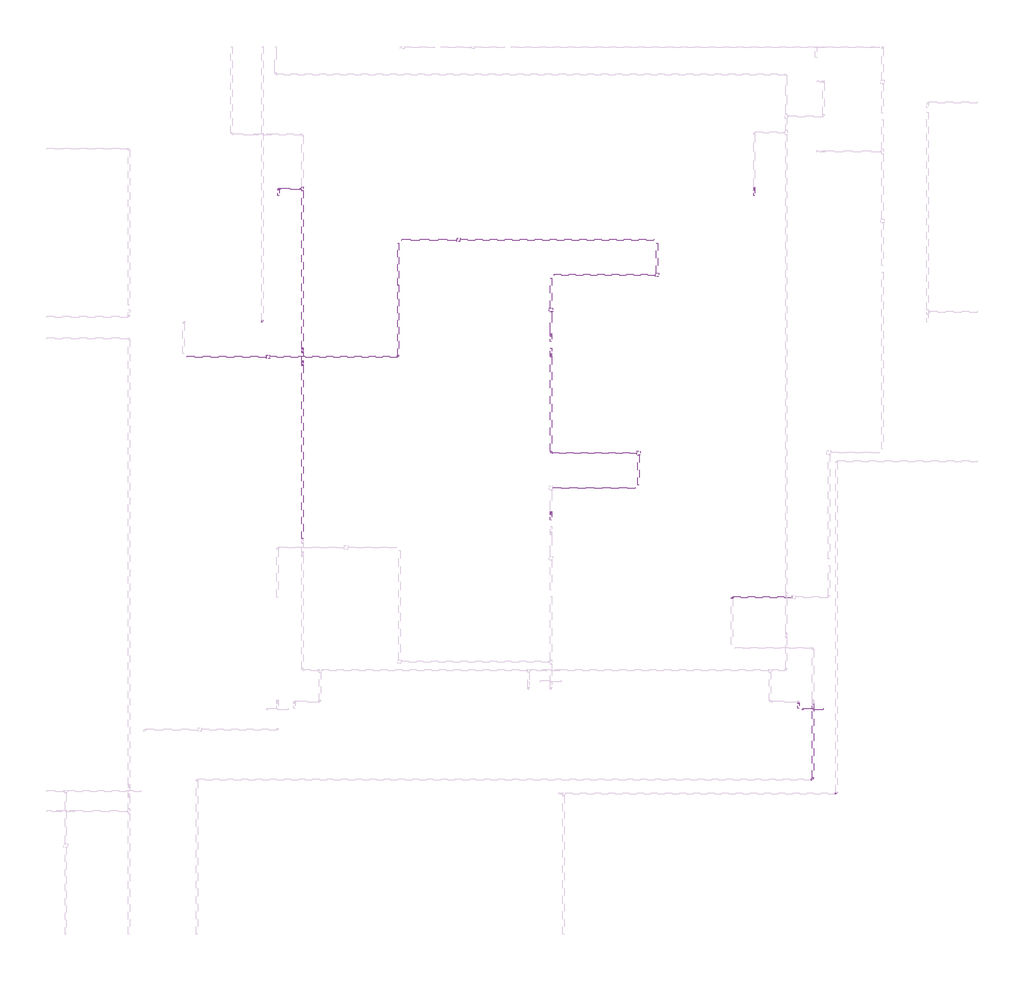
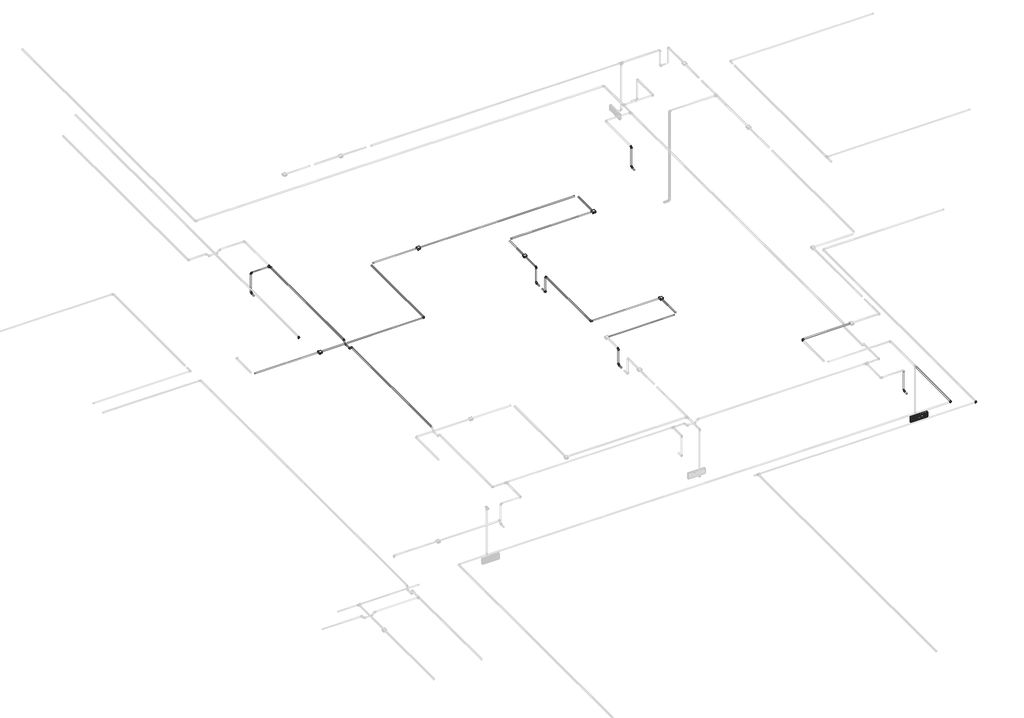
# One storey, part 12 of 40: 35 cable carrier segments, 22 cable carrier fittings, 6 alarms.
"""IFC4 building model written with IfcOpenShell, lengths in millimetres."""

from ifc_helpers import new_model, si_unit, point, frame, frame_2d, origin, place, context, project, spatial, circle_curve, trimmed, segment, composite_curve, outline, extrude, transform, mapped, element, save
from ifc_brep_helpers import plane_surface, cylinder_surface, advanced_brep
from components import alarm_4b7e8fd8, alarm_a2247946, cable_carrier_fitting_69f1a801, cable_carrier_fitting_8122f9af, cable_carrier_fitting_0e9b5d50, cable_carrier_fitting_8fd13dfc

model = new_model("IFC4")

# Units and contexts
model_context = context("Model", 3, world=origin())
ifc_project = project(units=[si_unit("LENGTHUNIT", "METRE", prefix="MILLI")], contexts=[model_context])

# Site, building, storey
site = spatial("IfcSite", under=ifc_project)
building = spatial("IfcBuilding", under=site)
storey = spatial("IfcBuildingStorey", under=building, Name="1 этаж", Elevation=0.0)

# Alarms
placement = place(None, origin())
alarm_shape = alarm_4b7e8fd8(model_context)
element("IfcAlarm", 1, ObjectType="RBZ_Оповещатель_Световой_Рубеж_ОПОП1-R3(грань) : ОПОП 1-R3 \"Выход\"", at=placement, inside=storey, context=model_context, shape_type="MappedRepresentation", body=[
    mapped(alarm_shape, transform((16403.9259979, -7495.3629895, 2300.0), x_axis=(1.0, 0.0, 0.0), y_axis=(0.0, 0.0, 1.0), z_axis=(0.0, -1.0, 0.0))),
])
alarm_2_shape = alarm_a2247946(model_context)
element("IfcAlarm", 2, ObjectType="RBZ_ИзоляторШлейфа_Рубеж_ИЗ-1_прот.R3(плоскость) : ИЗ-1 прот.R3", at=placement, inside=storey, context=model_context, shape_type="MappedRepresentation", body=[
    mapped(alarm_2_shape, transform((14179.951915, -1305.3629895, 3200.75), x_axis=(1.0, 0.0, 0.0), y_axis=(0.0, 1.0, 0.0), z_axis=(0.0, 0.0, 1.0))),
])
element("IfcAlarm", 3, ObjectType="RBZ_ИзоляторШлейфа_Рубеж_ИЗ-1_прот.R3(плоскость) : ИЗ-1 прот.R3", at=placement, inside=storey, context=model_context, shape_type="MappedRepresentation", body=[
    mapped(alarm_2_shape, transform((11347.6759979, -805.3629895, 3200.75), x_axis=(1.0, 0.0, 0.0), y_axis=(0.0, 1.0, 0.0), z_axis=(0.0, 0.0, 1.0))),
])
element("IfcAlarm", 4, ObjectType="RBZ_ИзоляторШлейфа_Рубеж_ИЗ-1_прот.R3(плоскость) : ИЗ-1 прот.R3", at=placement, inside=storey, context=model_context, shape_type="MappedRepresentation", body=[
    mapped(alarm_2_shape, transform((8632.6759979, -2475.3629895, 3200.5611701), x_axis=(1.0, 0.0, 0.0), y_axis=(0.0, 1.0, 0.0), z_axis=(0.0, 0.0, 1.0))),
])
element("IfcAlarm", 5, ObjectType="RBZ_ИзоляторШлейфа_Рубеж_ИЗ-1_прот.R3(плоскость) : ИЗ-1 прот.R3", at=placement, inside=storey, context=model_context, shape_type="MappedRepresentation", body=[
    mapped(alarm_2_shape, transform((12667.6759979, -1805.3629895, 3200.75), x_axis=(1.0, 0.0, 0.0), y_axis=(0.0, 1.0, 0.0), z_axis=(0.0, 0.0, 1.0))),
])
element("IfcAlarm", 6, ObjectType="RBZ_ИзоляторШлейфа_Рубеж_ИЗ-1_прот.R3(плоскость) : ИЗ-1 прот.R3", at=placement, inside=storey, context=model_context, shape_type="MappedRepresentation", body=[
    mapped(alarm_2_shape, transform((13917.6759979, -3848.0726854, 3200.75), x_axis=(1.0, 0.0, 0.0), y_axis=(0.0, 1.0, 0.0), z_axis=(0.0, 0.0, 1.0))),
])

# Cable carrier fittings
cable_carrier_fitting_shape = cable_carrier_fitting_69f1a801(model_context)
element("IfcCableCarrierFitting", 7, ObjectType="ADSK_Поворот_Минимальный размер : Неспецифицируемый", at=placement, inside=storey, context=model_context, shape_type="MappedRepresentation", body=[
    mapped(cable_carrier_fitting_shape, transform((10489.9519257, -2475.3629895, 3189.8153637), x_axis=(0.999999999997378, 0.0, 2.2899739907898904e-06), y_axis=(5.873502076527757e-11, 0.9999999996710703, -2.5648771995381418e-05), z_axis=(-2.28997399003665e-06, 2.564877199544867e-05, 0.9999999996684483))),
])
element("IfcCableCarrierFitting", 8, ObjectType="ADSK_Поворот_Минимальный размер : Неспецифицируемый", at=placement, inside=storey, context=model_context, shape_type="MappedRepresentation", body=[
    mapped(cable_carrier_fitting_shape, transform((15247.6759979, -5905.3629895, 3189.99952), x_axis=(-1.0, 0.0, 0.0), y_axis=(0.0, -1.0, 0.0), z_axis=(0.0, 0.0, 1.0))),
])
element("IfcCableCarrierFitting", 9, ObjectType="ADSK_Поворот_Минимальный размер : Неспецифицируемый", at=placement, inside=storey, context=model_context, shape_type="MappedRepresentation", body=[
    mapped(cable_carrier_fitting_shape, transform((8554.17594, -1975.3629895, 3189.8106424), x_axis=(0.9999999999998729, 0.0, -5.042216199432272e-07), y_axis=(0.0, 1.0, 0.0), z_axis=(5.042216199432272e-07, 0.0, 0.9999999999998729))),
])
element("IfcCableCarrierFitting", 10, ObjectType="ADSK_Поворот_Минимальный размер : Неспецифицируемый", at=placement, inside=storey, context=model_context, shape_type="MappedRepresentation", body=[
    mapped(cable_carrier_fitting_shape, transform((12667.6759979, -4704.1631839, 2891.5753772), x_axis=(0.0, 1.0, 0.0), y_axis=(0.0, 0.0, 1.0), z_axis=(1.0, 0.0, 0.0))),
])
element("IfcCableCarrierFitting", 11, ObjectType="ADSK_Поворот_Минимальный размер : Неспецифицируемый", at=placement, inside=storey, context=model_context, shape_type="MappedRepresentation", body=[
    mapped(cable_carrier_fitting_shape, transform((12667.6759979, -2162.1631839, 2891.5753772), x_axis=(0.0, 1.0, 0.0), y_axis=(0.0, 0.0, 1.0), z_axis=(1.0, 0.0, 0.0))),
])
element("IfcCableCarrierFitting", 12, ObjectType="ADSK_Поворот_Минимальный размер : Неспецифицируемый", at=placement, inside=storey, context=model_context, shape_type="MappedRepresentation", body=[
    mapped(cable_carrier_fitting_shape, transform((12667.6759979, -2162.1631839, 3190.0), x_axis=(0.0, 0.0, 1.0), y_axis=(0.0, 1.0, 0.0), z_axis=(-1.0, 0.0, 0.0))),
])
element("IfcCableCarrierFitting", 13, ObjectType="ADSK_Поворот_Минимальный размер : Неспецифицируемый", at=placement, inside=storey, context=model_context, shape_type="MappedRepresentation", body=[
    mapped(cable_carrier_fitting_shape, transform((12667.6759979, -2449.5627951, 2891.5753772), x_axis=(0.0, -1.0, 0.0), y_axis=(0.0, 0.0, 1.0), z_axis=(-1.0, 0.0, 0.0))),
])
element("IfcCableCarrierFitting", 14, ObjectType="ADSK_Поворот_Минимальный размер : Неспецифицируемый", at=placement, inside=storey, context=model_context, shape_type="MappedRepresentation", body=[
    mapped(cable_carrier_fitting_shape, transform((12667.6759979, -3848.0726854, 3190.0), x_axis=(0.0, -1.0, 0.0), y_axis=(1.0, 0.0, 0.0), z_axis=(0.0, 0.0, 1.0))),
])
element("IfcCableCarrierFitting", 15, ObjectType="ADSK_Поворот_Минимальный размер : Неспецифицируемый", at=placement, inside=storey, context=model_context, shape_type="MappedRepresentation", body=[
    mapped(cable_carrier_fitting_shape, transform((12667.6759979, -2449.5627951, 3190.0), x_axis=(0.0, 0.0, 1.0), y_axis=(0.0, -1.0, 0.0), z_axis=(1.0, 0.0, 0.0))),
])
element("IfcCableCarrierFitting", 16, ObjectType="ADSK_Поворот_Минимальный размер : Неспецифицируемый", at=placement, inside=storey, context=model_context, shape_type="MappedRepresentation", body=[
    mapped(cable_carrier_fitting_shape, transform((16199.9249252, -7398.1631839, 2797.4861504), x_axis=(0.0, 1.0, 0.0), y_axis=(0.0, 0.0, 1.0), z_axis=(1.0, 0.0, 0.0))),
])
element("IfcCableCarrierFitting", 17, ObjectType="ADSK_Поворот_Минимальный размер : Неспецифицируемый", at=placement, inside=storey, context=model_context, shape_type="MappedRepresentation", body=[
    mapped(cable_carrier_fitting_shape, transform((15567.6759979, -78.1631839, 2797.4861504), x_axis=(0.0, 1.0, 0.0), y_axis=(0.0, 0.0, 1.0), z_axis=(1.0, 0.0, 0.0))),
])
element("IfcCableCarrierFitting", 18, ObjectType="ADSK_Поворот_Минимальный размер : Неспецифицируемый", at=placement, inside=storey, context=model_context, shape_type="MappedRepresentation", body=[
    mapped(cable_carrier_fitting_shape, transform((15567.6759979, -78.1631839, 3180.0), x_axis=(0.0, 0.0, 1.0), y_axis=(0.0, 1.0, 0.0), z_axis=(-1.0, 0.0, 0.0))),
])
element("IfcCableCarrierFitting", 19, ObjectType="ADSK_Поворот_Минимальный размер : Неспецифицируемый", at=placement, inside=storey, context=model_context, shape_type="MappedRepresentation", body=[
    mapped(cable_carrier_fitting_shape, transform((8782.6759979, -78.1631839, 2797.4861504), x_axis=(0.0, 1.0, 0.0), y_axis=(0.0, 0.0, 1.0), z_axis=(1.0, 0.0, 0.0))),
])
element("IfcCableCarrierFitting", 20, ObjectType="ADSK_Поворот_Минимальный размер : Неспецифицируемый", at=placement, inside=storey, context=model_context, shape_type="MappedRepresentation", body=[
    mapped(cable_carrier_fitting_shape, transform((16403.9259979, -8505.3629895, 3190.0), x_axis=(1.0, 0.0, 0.0), y_axis=(0.0, 1.0, 0.0), z_axis=(0.0, 0.0, 1.0))),
])
element("IfcCableCarrierFitting", 21, ObjectType="ADSK_Поворот_Минимальный размер : Неспецифицируемый", at=placement, inside=storey, context=model_context, shape_type="MappedRepresentation", body=[
    mapped(cable_carrier_fitting_shape, transform((16740.1759979, -8707.8629895, 3187.0), x_axis=(1.0, 0.0, 0.0), y_axis=(0.0, 1.0, 0.0), z_axis=(0.0, 0.0, 1.0))),
])
element("IfcCableCarrierFitting", 22, ObjectType="ADSK_Поворот_Минимальный размер : Неспецифицируемый", at=placement, inside=storey, context=model_context, shape_type="MappedRepresentation", body=[
    mapped(cable_carrier_fitting_shape, transform((8782.6759979, -78.1631839, 3180.0), x_axis=(0.0, 0.0, 1.0), y_axis=(1.0, 0.0, 0.0), z_axis=(0.0, 1.0, 0.0))),
])
cable_carrier_fitting_2_shape = cable_carrier_fitting_8122f9af(model_context)
element("IfcCableCarrierFitting", 23, ObjectType="ADSK_Поворот_Минимальный размер : Неспецифицируемый", at=placement, inside=storey, context=model_context, shape_type="MappedRepresentation", body=[
    mapped(cable_carrier_fitting_2_shape, transform((9122.6759979, -2591.9352607, 3180.0), x_axis=(0.0, 1.0, 0.0), y_axis=(0.0, 0.0, -1.0), z_axis=(-1.0, 0.0, 0.0))),
])
element("IfcCableCarrierFitting", 24, ObjectType="ADSK_Поворот_Минимальный размер : Неспецифицируемый", at=placement, inside=storey, context=model_context, shape_type="MappedRepresentation", body=[
    mapped(cable_carrier_fitting_2_shape, transform((9122.6759979, -2541.9352607, 3130.0), x_axis=(0.0, 0.707106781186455, -0.7071067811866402), y_axis=(0.0, 0.7071067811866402, 0.707106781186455), z_axis=(1.0, 0.0, 0.0))),
])
element("IfcCableCarrierFitting", 25, ObjectType="ADSK_Поворот_Минимальный размер : Неспецифицируемый", at=placement, inside=storey, context=model_context, shape_type="MappedRepresentation", body=[
    mapped(cable_carrier_fitting_2_shape, transform((9122.6759979, -2408.7907182, 3130.0), x_axis=(0.0, 1.0, 0.0), y_axis=(0.0, 0.0, 1.0), z_axis=(1.0, 0.0, 0.0))),
])
element("IfcCableCarrierFitting", 26, ObjectType="ADSK_Поворот_Минимальный размер : Неспецифицируемый", at=placement, inside=storey, context=model_context, shape_type="MappedRepresentation", body=[
    mapped(cable_carrier_fitting_2_shape, transform((9122.6759979, -2358.7907182, 3180.0), x_axis=(0.0, 0.7071067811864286, 0.7071067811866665), y_axis=(0.0, 0.7071067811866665, -0.7071067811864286), z_axis=(-1.0, 0.0, 0.0))),
])
cable_carrier_fitting_3_shape = cable_carrier_fitting_0e9b5d50(model_context)
element("IfcCableCarrierFitting", 27, ObjectType="ADSK_Поворот_Минимальный размер : Неспецифицируемый", at=placement, inside=storey, context=model_context, shape_type="MappedRepresentation", body=[
    mapped(cable_carrier_fitting_3_shape, transform((12667.6759979, -4704.1631839, 3189.9984687), x_axis=(0.0, 0.0, 1.0), y_axis=(0.0, 1.0, 0.0), z_axis=(-1.0, 0.0, 0.0))),
])
cable_carrier_fitting_4_shape = cable_carrier_fitting_8fd13dfc(model_context)
element("IfcCableCarrierFitting", 28, ObjectType="ADSK_Тройник : ПВХ", at=placement, inside=storey, context=model_context, shape_type="MappedRepresentation", body=[
    mapped(cable_carrier_fitting_4_shape, transform((9122.6759979, -78.1631839, 3180.0), x_axis=(0.0, -1.0, 0.0), y_axis=(1.0, 0.0, 0.0), z_axis=(0.0, 0.0, 1.0))),
])

# Cable carrier segments
element("IfcCableCarrierSegment", 29, ObjectType="Гофрированная труба", at=placement, inside=storey, context=model_context, shape_type="SweptSolid", body=[
    extrude(outline(composite_curve([segment(trimmed(circle_curve(frame_2d((-2475.3629895, 3189.8111701)), 10.0), [point((-2465.3629895, 3189.8111701))], [point((-2475.3629895, 3179.8111701))], False, "CARTESIAN"), True, "CONTINUOUS"), segment(trimmed(circle_curve(frame_2d((-2475.3629895, 3189.8111701)), 10.0), [point((-2475.3629895, 3179.8111701))], [point((-2485.3629895, 3189.8111701))], False, "CARTESIAN"), True, "CONTINUOUS"), segment(trimmed(circle_curve(frame_2d((-2475.3629895, 3189.8111701)), 10.0), [point((-2485.3629895, 3189.8111701))], [point((-2475.3629895, 3199.8111701))], False, "CARTESIAN"), True, "CONTINUOUS"), segment(trimmed(circle_curve(frame_2d((-2475.3629895, 3189.8111701)), 10.0), [point((-2475.3629895, 3199.8111701))], [point((-2465.3629895, 3189.8111701))], False, "CARTESIAN"), True, "CONTINUOUS")], self_intersect=False)), frame((7474.1759982, 0.0, 0.0), z_axis=(1.0, 0.0, 0.0), x_axis=(0.0, 1.0, 0.0)), (0.0, 0.0, 1.0), 1132.4999997),
])
element("IfcCableCarrierSegment", 30, ObjectType="Гофрированная труба", at=placement, inside=storey, context=model_context, shape_type="SweptSolid", body=[
    extrude(outline(composite_curve([segment(trimmed(circle_curve(frame_2d((0.0, -10.0)), 10.0), [point((-10.0, -10.0))], [point((0.0, 0.0))], False, "CARTESIAN"), True, "CONTINUOUS"), segment(trimmed(circle_curve(frame_2d((0.0, -10.0)), 10.0), [point((0.0, 0.0))], [point((10.0, -10.0))], False, "CARTESIAN"), True, "CONTINUOUS"), segment(trimmed(circle_curve(frame_2d((0.0, -10.0)), 10.0), [point((10.0, -10.0))], [point((0.0, -20.0))], False, "CARTESIAN"), True, "CONTINUOUS"), segment(trimmed(circle_curve(frame_2d((0.0, -10.0)), 10.0), [point((0.0, -20.0))], [point((-10.0, -10.0))], False, "CARTESIAN"), True, "CONTINUOUS")], self_intersect=False)), frame((8658.6760208, -2475.3629895, 3179.8111701), z_axis=(0.9999999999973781, 0.0, 2.2899739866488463e-06), x_axis=(0.0, -1.0, 0.0)), (0.0, 0.0, 1.0), 1810.2759278),
])
element("IfcCableCarrierSegment", 31, ObjectType="Гофрированная труба", at=placement, inside=storey, context=model_context, shape_type="SweptSolid", body=[
    extrude(outline(composite_curve([segment(trimmed(circle_curve(frame_2d((0.0, -10.0)), 10.0), [point((0.0, -20.0))], [point((-10.0000001, -10.0))], False, "CARTESIAN"), True, "CONTINUOUS"), segment(trimmed(circle_curve(frame_2d((0.0, -10.0)), 10.0), [point((-10.0000001, -10.0))], [point((0.0, 0.0))], False, "CARTESIAN"), True, "CONTINUOUS"), segment(trimmed(circle_curve(frame_2d((0.0, -10.0)), 10.0), [point((0.0, 0.0))], [point((10.0, -10.0))], False, "CARTESIAN"), True, "CONTINUOUS"), segment(trimmed(circle_curve(frame_2d((0.0, -10.0)), 10.0), [point((10.0, -10.0))], [point((0.0, -20.0))], False, "CARTESIAN"), True, "CONTINUOUS")], self_intersect=False)), frame((10479.9519257, -1455.3629895, 3189.253655), z_axis=(0.0, -0.9999998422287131, 0.0005617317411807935), x_axis=(0.0, 0.0005617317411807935, 0.9999998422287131)), (0.0, 0.0, 1.0), 999.0001576),
])
element("IfcCableCarrierSegment", 32, ObjectType="Гофрированная труба", at=placement, inside=storey, context=model_context, shape_type="SweptSolid", body=[
    extrude(outline(composite_curve([segment(trimmed(circle_curve(frame_2d((-805.3629895, 3190.0)), 10.0), [point((-795.3629895, 3190.0))], [point((-805.3629895, 3180.0))], False, "CARTESIAN"), True, "CONTINUOUS"), segment(trimmed(circle_curve(frame_2d((-805.3629895, 3190.0)), 10.0), [point((-805.3629895, 3180.0))], [point((-815.3629895, 3190.0))], False, "CARTESIAN"), True, "CONTINUOUS"), segment(trimmed(circle_curve(frame_2d((-805.3629895, 3190.0)), 10.0), [point((-815.3629895, 3190.0))], [point((-805.3629895, 3200.0))], False, "CARTESIAN"), True, "CONTINUOUS"), segment(trimmed(circle_curve(frame_2d((-805.3629895, 3190.0)), 10.0), [point((-805.3629895, 3200.0))], [point((-795.3629895, 3190.0))], False, "CARTESIAN"), True, "CONTINUOUS")], self_intersect=False)), frame((10536.451915, 0.0, 0.0), z_axis=(1.0, 0.0, 0.0), x_axis=(0.0, 1.0, 0.0)), (0.0, 0.0, 1.0), 785.2240829),
])
element("IfcCableCarrierSegment", 33, ObjectType="Гофрированная труба", at=placement, inside=storey, context=model_context, shape_type="SweptSolid", body=[
    extrude(outline(composite_curve([segment(trimmed(circle_curve(frame_2d((-805.3629895, 3190.0)), 10.0), [point((-795.3629895, 3190.0))], [point((-805.3629895, 3180.0))], False, "CARTESIAN"), True, "CONTINUOUS"), segment(trimmed(circle_curve(frame_2d((-805.3629895, 3190.0)), 10.0), [point((-805.3629895, 3180.0))], [point((-815.3629895, 3190.0))], False, "CARTESIAN"), True, "CONTINUOUS"), segment(trimmed(circle_curve(frame_2d((-805.3629895, 3190.0)), 10.0), [point((-815.3629895, 3190.0))], [point((-805.3629895, 3200.0))], False, "CARTESIAN"), True, "CONTINUOUS"), segment(trimmed(circle_curve(frame_2d((-805.3629895, 3190.0)), 10.0), [point((-805.3629895, 3200.0))], [point((-795.3629895, 3190.0))], False, "CARTESIAN"), True, "CONTINUOUS")], self_intersect=False)), frame((11373.6759979, 0.0, 0.0), z_axis=(1.0, 0.0, 0.0), x_axis=(0.0, 1.0, 0.0)), (0.0, 0.0, 1.0), 2759.7759171),
])
element("IfcCableCarrierSegment", 34, ObjectType="Гофрированная труба", at=placement, inside=storey, context=model_context, shape_type="SweptSolid", body=[
    extrude(outline(composite_curve([segment(trimmed(circle_curve(frame_2d((-1305.3629895, 3190.0)), 10.0), [point((-1295.3629895, 3190.0))], [point((-1305.3629895, 3180.0))], False, "CARTESIAN"), True, "CONTINUOUS"), segment(trimmed(circle_curve(frame_2d((-1305.3629895, 3190.0)), 10.0), [point((-1305.3629895, 3180.0))], [point((-1315.3629895, 3190.0))], False, "CARTESIAN"), True, "CONTINUOUS"), segment(trimmed(circle_curve(frame_2d((-1305.3629895, 3190.0)), 10.0), [point((-1315.3629895, 3190.0))], [point((-1305.3629895, 3200.0))], False, "CARTESIAN"), True, "CONTINUOUS"), segment(trimmed(circle_curve(frame_2d((-1305.3629895, 3190.0)), 10.0), [point((-1305.3629895, 3200.0))], [point((-1295.3629895, 3190.0))], False, "CARTESIAN"), True, "CONTINUOUS")], self_intersect=False)), frame((12714.1759979, 0.0, 0.0), z_axis=(1.0, 0.0, 0.0), x_axis=(0.0, 1.0, 0.0)), (0.0, 0.0, 1.0), 1439.7759171),
])
element("IfcCableCarrierSegment", 35, ObjectType="Гофрированная труба", at=placement, inside=storey, context=model_context, shape_type="AdvancedBrep", body=[
    advanced_brep(
    [(16393.9259974, -7428.1631839, 3190.0), (16403.9259974, -7428.1631839, 3200.0), (16413.9259974, -7428.1631839, 3190.0), (16403.9259974, -7428.1631839, 3180.0), (16393.9259979, -8484.3629895, 3190.0), (16403.9259979, -8484.3629895, 3180.0), (16413.9259979, -8484.3629895, 3190.0), (16403.9259979, -8484.3629895, 3200.0)],
    [
        (0, 1, circle_curve(frame((16403.9259974, -7428.1631839, 3190.0), z_axis=(0.0, 1.0, 0.0), x_axis=(-1.0, 0.0, 0.0)), 10.0)),
        (1, 2, circle_curve(frame((16403.9259974, -7428.1631839, 3190.0), z_axis=(0.0, 1.0, 0.0), x_axis=(-1.0, 0.0, 0.0)), 10.0)),
        (2, 3, circle_curve(frame((16403.9259974, -7428.1631839, 3190.0), z_axis=(0.0, 1.0, 0.0), x_axis=(-1.0, 0.0, 0.0)), 10.0)),
        (3, 0, circle_curve(frame((16403.9259974, -7428.1631839, 3190.0), z_axis=(0.0, 1.0, 0.0), x_axis=(-1.0, 0.0, 0.0)), 10.0)),
        (4, 5, circle_curve(frame((16403.9259974, -8484.3629895, 3190.0), z_axis=(0.0, -1.0, 0.0), x_axis=(-1.0, 0.0, 0.0)), 9.9999995)),
        (5, 6, circle_curve(frame((16403.9259974, -8484.3629895, 3190.0), z_axis=(0.0, -1.0, 0.0), x_axis=(-1.0, 0.0, 0.0)), 10.0)),
        (6, 7, circle_curve(frame((16403.9259974, -8484.3629895, 3190.0), z_axis=(0.0, -1.0, 0.0), x_axis=(-1.0, 0.0, 0.0)), 10.0000005)),
        (7, 4, circle_curve(frame((16403.9259974, -8484.3629895, 3190.0), z_axis=(0.0, -1.0, 0.0), x_axis=(-1.0, 0.0, 0.0)), 10.0)),
        (0, 4),
        (7, 1),
        (6, 2),
        (5, 3),
    ],
    [
        plane_surface(frame((16393.9259974, -7428.1631839, 3190.0), z_axis=(-5.026127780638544e-10, 1.0, 0.0), x_axis=(0.0, 0.0, -1.0))),
        plane_surface(frame((16393.9259979, -8484.3629895, 3190.0), z_axis=(5.026127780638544e-10, -1.0, 0.0), x_axis=(0.0, 0.0, -1.0))),
        cylinder_surface(frame((16403.9259974, -7428.1631839, 3190.0), z_axis=(0.0, 1.0, 0.0), x_axis=(-1.0, 0.0, 0.0)), 10.0),
    ],
    [
        (0, [[1, 2, 3, 4]]),
        (1, [[5, 6, 7, 8]]),
        (2, [[-1, 9, -8, 10]]),
        (2, [[-2, -10, -7, 11]]),
        (2, [[-3, -11, -6, 12]]),
        (2, [[-4, -12, -5, -9]]),
    ],
),
])
element("IfcCableCarrierSegment", 36, ObjectType="Гофрированная труба", at=placement, inside=storey, context=model_context, shape_type="SweptSolid", body=[
    extrude(outline(composite_curve([segment(trimmed(circle_curve(frame_2d((-5905.3629895, 3189.99952)), 10.0), [point((-5915.3629895, 3189.99952))], [point((-5905.3629895, 3199.99952))], False, "CARTESIAN"), True, "CONTINUOUS"), segment(trimmed(circle_curve(frame_2d((-5905.3629895, 3189.99952)), 10.0), [point((-5905.3629895, 3199.99952))], [point((-5895.3629895, 3189.99952))], False, "CARTESIAN"), True, "CONTINUOUS"), segment(trimmed(circle_curve(frame_2d((-5905.3629895, 3189.99952)), 10.0), [point((-5895.3629895, 3189.99952))], [point((-5905.3629895, 3179.99952))], False, "CARTESIAN"), True, "CONTINUOUS"), segment(trimmed(circle_curve(frame_2d((-5905.3629895, 3189.99952)), 10.0), [point((-5905.3629895, 3179.99952))], [point((-5915.3629895, 3189.99952))], False, "CARTESIAN"), True, "CONTINUOUS")], self_intersect=False)), frame((15268.6759979, 0.0, 0.0), z_axis=(1.0, 0.0, 0.0), x_axis=(0.0, 1.0, 0.0)), (0.0, 0.0, 1.0), 833.0),
])
element("IfcCableCarrierSegment", 37, ObjectType="Гофрированная труба", at=placement, inside=storey, context=model_context, shape_type="SweptSolid", body=[
    extrude(outline(composite_curve([segment(trimmed(circle_curve(frame_2d((3190.0, 10489.951915)), 10.0), [point((3190.0, 10479.951915))], [point((3180.0, 10489.951915))], False, "CARTESIAN"), True, "CONTINUOUS"), segment(trimmed(circle_curve(frame_2d((3190.0, 10489.951915)), 10.0), [point((3180.0, 10489.951915))], [point((3190.0, 10499.951915))], False, "CARTESIAN"), True, "CONTINUOUS"), segment(trimmed(circle_curve(frame_2d((3190.0, 10489.951915)), 10.0), [point((3190.0, 10499.951915))], [point((3200.0, 10489.951915))], False, "CARTESIAN"), True, "CONTINUOUS"), segment(trimmed(circle_curve(frame_2d((3190.0, 10489.951915)), 10.0), [point((3200.0, 10489.951915))], [point((3190.0, 10479.951915))], False, "CARTESIAN"), True, "CONTINUOUS")], self_intersect=False)), frame((0.0, -1455.3629895, 0.0), z_axis=(0.0, 1.0, 0.0), x_axis=(0.0, 0.0, 1.0)), (0.0, 0.0, 1.0), 603.5),
])
element("IfcCableCarrierSegment", 38, ObjectType="Гофрированная труба", at=placement, inside=storey, context=model_context, shape_type="SweptSolid", body=[
    extrude(outline(composite_curve([segment(trimmed(circle_curve(frame_2d((3190.0, 14179.951915)), 10.0), [point((3190.0, 14189.951915))], [point((3200.0, 14179.951915))], False, "CARTESIAN"), True, "CONTINUOUS"), segment(trimmed(circle_curve(frame_2d((3190.0, 14179.951915)), 10.0), [point((3200.0, 14179.951915))], [point((3190.0, 14169.951915))], False, "CARTESIAN"), True, "CONTINUOUS"), segment(trimmed(circle_curve(frame_2d((3190.0, 14179.951915)), 10.0), [point((3190.0, 14169.951915))], [point((3180.0, 14179.951915))], False, "CARTESIAN"), True, "CONTINUOUS"), segment(trimmed(circle_curve(frame_2d((3190.0, 14179.951915)), 10.0), [point((3180.0, 14179.951915))], [point((3190.0, 14189.951915))], False, "CARTESIAN"), True, "CONTINUOUS")], self_intersect=False)), frame((0.0, -1279.3629895, 0.0), z_axis=(0.0, 1.0, 0.0), x_axis=(0.0, 0.0, 1.0)), (0.0, 0.0, 1.0), 427.5),
])
element("IfcCableCarrierSegment", 39, ObjectType="Гофрированная труба", at=placement, inside=storey, context=model_context, shape_type="SweptSolid", body=[
    extrude(outline(composite_curve([segment(trimmed(circle_curve(frame_2d((2891.5753772, 12667.6759979)), 10.0), [point((2891.5753772, 12677.6759979))], [point((2901.5753772, 12667.6759979))], False, "CARTESIAN"), True, "CONTINUOUS"), segment(trimmed(circle_curve(frame_2d((2891.5753772, 12667.6759979)), 10.0), [point((2901.5753772, 12667.6759979))], [point((2891.5753772, 12657.6759979))], False, "CARTESIAN"), True, "CONTINUOUS"), segment(trimmed(circle_curve(frame_2d((2891.5753772, 12667.6759979)), 10.0), [point((2891.5753772, 12657.6759979))], [point((2881.5753772, 12667.6759979))], False, "CARTESIAN"), True, "CONTINUOUS"), segment(trimmed(circle_curve(frame_2d((2891.5753772, 12667.6759979)), 10.0), [point((2881.5753772, 12667.6759979))], [point((2891.5753772, 12677.6759979))], False, "CARTESIAN"), True, "CONTINUOUS")], self_intersect=False)), frame((0.0, -4801.3629895, 0.0), z_axis=(0.0, 1.0, 0.0), x_axis=(0.0, 0.0, 1.0)), (0.0, 0.0, 1.0), 76.1998056),
])
element("IfcCableCarrierSegment", 40, ObjectType="Гофрированная труба", at=placement, inside=storey, context=model_context, shape_type="SweptSolid", body=[
    extrude(outline(composite_curve([segment(trimmed(circle_curve(frame_2d((12667.6759979, -4704.1631839)), 10.0), [point((12657.6759979, -4704.1631839))], [point((12667.6759979, -4694.1631839))], False, "CARTESIAN"), True, "CONTINUOUS"), segment(trimmed(circle_curve(frame_2d((12667.6759979, -4704.1631839)), 10.0), [point((12667.6759979, -4694.1631839))], [point((12677.6759979, -4704.1631839))], False, "CARTESIAN"), True, "CONTINUOUS"), segment(trimmed(circle_curve(frame_2d((12667.6759979, -4704.1631839)), 10.0), [point((12677.6759979, -4704.1631839))], [point((12667.6759979, -4714.1631839))], False, "CARTESIAN"), True, "CONTINUOUS"), segment(trimmed(circle_curve(frame_2d((12667.6759979, -4704.1631839)), 10.0), [point((12667.6759979, -4714.1631839))], [point((12657.6759979, -4704.1631839))], False, "CARTESIAN"), True, "CONTINUOUS")], self_intersect=False)), frame((0.0, 0.0, 2912.5753772), z_axis=(0.0, 0.0, 1.0), x_axis=(1.0, 0.0, 0.0)), (0.0, 0.0, 1.0), 256.4245498),
])
element("IfcCableCarrierSegment", 41, ObjectType="Гофрированная труба", at=placement, inside=storey, context=model_context, shape_type="SweptSolid", body=[
    extrude(outline(composite_curve([segment(trimmed(circle_curve(frame_2d((0.0, -10.0)), 10.0), [point((-10.0, -10.0))], [point((0.0, 0.0))], False, "CARTESIAN"), True, "CONTINUOUS"), segment(trimmed(circle_curve(frame_2d((0.0, -10.0)), 10.0), [point((0.0, 0.0))], [point((10.0, -10.0))], False, "CARTESIAN"), True, "CONTINUOUS"), segment(trimmed(circle_curve(frame_2d((0.0, -10.0)), 10.0), [point((10.0, -10.0))], [point((0.0, -20.0))], False, "CARTESIAN"), True, "CONTINUOUS"), segment(trimmed(circle_curve(frame_2d((0.0, -10.0)), 10.0), [point((0.0, -20.0))], [point((-10.0, -10.0))], False, "CARTESIAN"), True, "CONTINUOUS")], self_intersect=False)), frame((13871.1758064, -4347.8629895, 3180.0), z_axis=(-0.999999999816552, 0.0, 1.915452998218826e-05), x_axis=(0.0, 1.0, 0.0)), (0.0, 0.0, 1.0), 1177.5000002),
])
element("IfcCableCarrierSegment", 42, ObjectType="Гофрированная труба", at=placement, inside=storey, context=model_context, shape_type="SweptSolid", body=[
    extrude(outline(composite_curve([segment(trimmed(circle_curve(frame_2d((3190.0, 13917.6759979)), 10.0), [point((3190.0, 13907.6759979))], [point((3180.0, 13917.6759979))], False, "CARTESIAN"), True, "CONTINUOUS"), segment(trimmed(circle_curve(frame_2d((3190.0, 13917.6759979)), 10.0), [point((3180.0, 13917.6759979))], [point((3190.0, 13927.6759979))], False, "CARTESIAN"), True, "CONTINUOUS"), segment(trimmed(circle_curve(frame_2d((3190.0, 13917.6759979)), 10.0), [point((3190.0, 13927.6759979))], [point((3200.0, 13917.6759979))], False, "CARTESIAN"), True, "CONTINUOUS"), segment(trimmed(circle_curve(frame_2d((3190.0, 13917.6759979)), 10.0), [point((3200.0, 13917.6759979))], [point((3190.0, 13907.6759979))], False, "CARTESIAN"), True, "CONTINUOUS")], self_intersect=False)), frame((0.0, -4301.3629895, 0.0), z_axis=(0.0, 1.0, 0.0), x_axis=(0.0, 0.0, 1.0)), (0.0, 0.0, 1.0), 427.290304),
])
element("IfcCableCarrierSegment", 43, ObjectType="Гофрированная труба", at=placement, inside=storey, context=model_context, shape_type="SweptSolid", body=[
    extrude(outline(composite_curve([segment(trimmed(circle_curve(frame_2d((-3848.0726854, 3190.0)), 10.0), [point((-3838.0726854, 3190.0))], [point((-3848.0726854, 3180.0))], False, "CARTESIAN"), True, "CONTINUOUS"), segment(trimmed(circle_curve(frame_2d((-3848.0726854, 3190.0)), 10.0), [point((-3848.0726854, 3180.0))], [point((-3858.0726854, 3190.0))], False, "CARTESIAN"), True, "CONTINUOUS"), segment(trimmed(circle_curve(frame_2d((-3848.0726854, 3190.0)), 10.0), [point((-3858.0726854, 3190.0))], [point((-3848.0726854, 3200.0))], False, "CARTESIAN"), True, "CONTINUOUS"), segment(trimmed(circle_curve(frame_2d((-3848.0726854, 3190.0)), 10.0), [point((-3848.0726854, 3200.0))], [point((-3838.0726854, 3190.0))], False, "CARTESIAN"), True, "CONTINUOUS")], self_intersect=False)), frame((12688.6759979, 0.0, 0.0), z_axis=(1.0, 0.0, 0.0), x_axis=(0.0, 1.0, 0.0)), (0.0, 0.0, 1.0), 1203.0),
])
element("IfcCableCarrierSegment", 44, ObjectType="Гофрированная труба", at=placement, inside=storey, context=model_context, shape_type="SweptSolid", body=[
    extrude(outline(composite_curve([segment(trimmed(circle_curve(frame_2d((3190.0, 12667.6759979)), 10.0), [point((3190.0, 12677.6759979))], [point((3200.0, 12667.6759979))], False, "CARTESIAN"), True, "CONTINUOUS"), segment(trimmed(circle_curve(frame_2d((3190.0, 12667.6759979)), 10.0), [point((3200.0, 12667.6759979))], [point((3190.0, 12657.6759979))], False, "CARTESIAN"), True, "CONTINUOUS"), segment(trimmed(circle_curve(frame_2d((3190.0, 12667.6759979)), 10.0), [point((3190.0, 12657.6759979))], [point((3180.0, 12667.6759979))], False, "CARTESIAN"), True, "CONTINUOUS"), segment(trimmed(circle_curve(frame_2d((3190.0, 12667.6759979)), 10.0), [point((3180.0, 12667.6759979))], [point((3190.0, 12677.6759979))], False, "CARTESIAN"), True, "CONTINUOUS")], self_intersect=False)), frame((0.0, -1779.3629895, 0.0), z_axis=(0.0, 1.0, 0.0), x_axis=(0.0, 0.0, 1.0)), (0.0, 0.0, 1.0), 427.5),
])
element("IfcCableCarrierSegment", 45, ObjectType="Гофрированная труба", at=placement, inside=storey, context=model_context, shape_type="SweptSolid", body=[
    extrude(outline(composite_curve([segment(trimmed(circle_curve(frame_2d((3190.0, 12667.6759979)), 10.0), [point((3190.0, 12677.6759979))], [point((3200.0, 12667.6759979))], False, "CARTESIAN"), True, "CONTINUOUS"), segment(trimmed(circle_curve(frame_2d((3190.0, 12667.6759979)), 10.0), [point((3200.0, 12667.6759979))], [point((3190.0, 12657.6759979))], False, "CARTESIAN"), True, "CONTINUOUS"), segment(trimmed(circle_curve(frame_2d((3190.0, 12667.6759979)), 10.0), [point((3190.0, 12657.6759979))], [point((3180.0, 12667.6759979))], False, "CARTESIAN"), True, "CONTINUOUS"), segment(trimmed(circle_curve(frame_2d((3190.0, 12667.6759979)), 10.0), [point((3180.0, 12667.6759979))], [point((3190.0, 12677.6759979))], False, "CARTESIAN"), True, "CONTINUOUS")], self_intersect=False)), frame((0.0, -2141.1631839, 0.0), z_axis=(0.0, 1.0, 0.0), x_axis=(0.0, 0.0, 1.0)), (0.0, 0.0, 1.0), 309.8001944),
])
element("IfcCableCarrierSegment", 46, ObjectType="Гофрированная труба", at=placement, inside=storey, context=model_context, shape_type="SweptSolid", body=[
    extrude(outline(composite_curve([segment(trimmed(circle_curve(frame_2d((2891.5753772, 12667.6759979)), 10.0), [point((2891.5753772, 12677.6759979))], [point((2901.5753772, 12667.6759979))], False, "CARTESIAN"), True, "CONTINUOUS"), segment(trimmed(circle_curve(frame_2d((2891.5753772, 12667.6759979)), 10.0), [point((2901.5753772, 12667.6759979))], [point((2891.5753772, 12657.6759979))], False, "CARTESIAN"), True, "CONTINUOUS"), segment(trimmed(circle_curve(frame_2d((2891.5753772, 12667.6759979)), 10.0), [point((2891.5753772, 12657.6759979))], [point((2881.5753772, 12667.6759979))], False, "CARTESIAN"), True, "CONTINUOUS"), segment(trimmed(circle_curve(frame_2d((2891.5753772, 12667.6759979)), 10.0), [point((2881.5753772, 12667.6759979))], [point((2891.5753772, 12677.6759979))], False, "CARTESIAN"), True, "CONTINUOUS")], self_intersect=False)), frame((0.0, -2259.3629895, 0.0), z_axis=(0.0, 1.0, 0.0), x_axis=(0.0, 0.0, 1.0)), (0.0, 0.0, 1.0), 76.1998056),
])
element("IfcCableCarrierSegment", 47, ObjectType="Гофрированная труба", at=placement, inside=storey, context=model_context, shape_type="SweptSolid", body=[
    extrude(outline(composite_curve([segment(trimmed(circle_curve(frame_2d((12667.6759979, -2162.1631839)), 10.0), [point((12657.6759979, -2162.1631839))], [point((12667.6759979, -2152.1631839))], False, "CARTESIAN"), True, "CONTINUOUS"), segment(trimmed(circle_curve(frame_2d((12667.6759979, -2162.1631839)), 10.0), [point((12667.6759979, -2152.1631839))], [point((12677.6759979, -2162.1631839))], False, "CARTESIAN"), True, "CONTINUOUS"), segment(trimmed(circle_curve(frame_2d((12667.6759979, -2162.1631839)), 10.0), [point((12677.6759979, -2162.1631839))], [point((12667.6759979, -2172.1631839))], False, "CARTESIAN"), True, "CONTINUOUS"), segment(trimmed(circle_curve(frame_2d((12667.6759979, -2162.1631839)), 10.0), [point((12667.6759979, -2172.1631839))], [point((12657.6759979, -2162.1631839))], False, "CARTESIAN"), True, "CONTINUOUS")], self_intersect=False)), frame((0.0, 0.0, 2912.5753772), z_axis=(0.0, 0.0, 1.0), x_axis=(1.0, 0.0, 0.0)), (0.0, 0.0, 1.0), 256.4246228),
])
element("IfcCableCarrierSegment", 48, ObjectType="Гофрированная труба", at=placement, inside=storey, context=model_context, shape_type="SweptSolid", body=[
    extrude(outline(composite_curve([segment(trimmed(circle_curve(frame_2d((3190.0, 12667.6759979)), 10.0), [point((3190.0, 12677.6759979))], [point((3200.0, 12667.6759979))], False, "CARTESIAN"), True, "CONTINUOUS"), segment(trimmed(circle_curve(frame_2d((3190.0, 12667.6759979)), 10.0), [point((3200.0, 12667.6759979))], [point((3190.0, 12657.6759979))], False, "CARTESIAN"), True, "CONTINUOUS"), segment(trimmed(circle_curve(frame_2d((3190.0, 12667.6759979)), 10.0), [point((3190.0, 12657.6759979))], [point((3180.0, 12667.6759979))], False, "CARTESIAN"), True, "CONTINUOUS"), segment(trimmed(circle_curve(frame_2d((3190.0, 12667.6759979)), 10.0), [point((3180.0, 12667.6759979))], [point((3190.0, 12677.6759979))], False, "CARTESIAN"), True, "CONTINUOUS")], self_intersect=False)), frame((0.0, -3827.0726854, 0.0), z_axis=(0.0, 1.0, 0.0), x_axis=(0.0, 0.0, 1.0)), (0.0, 0.0, 1.0), 1356.5098904),
])
element("IfcCableCarrierSegment", 49, ObjectType="Гофрированная труба", at=placement, inside=storey, context=model_context, shape_type="SweptSolid", body=[
    extrude(outline(composite_curve([segment(trimmed(circle_curve(frame_2d((2891.5753772, 12667.6759979)), 10.0), [point((2891.5753772, 12657.6759979))], [point((2881.5753772, 12667.6759979))], False, "CARTESIAN"), True, "CONTINUOUS"), segment(trimmed(circle_curve(frame_2d((2891.5753772, 12667.6759979)), 10.0), [point((2881.5753772, 12667.6759979))], [point((2891.5753772, 12677.6759979))], False, "CARTESIAN"), True, "CONTINUOUS"), segment(trimmed(circle_curve(frame_2d((2891.5753772, 12667.6759979)), 10.0), [point((2891.5753772, 12677.6759979))], [point((2901.5753772, 12667.6759979))], False, "CARTESIAN"), True, "CONTINUOUS"), segment(trimmed(circle_curve(frame_2d((2891.5753772, 12667.6759979)), 10.0), [point((2901.5753772, 12667.6759979))], [point((2891.5753772, 12657.6759979))], False, "CARTESIAN"), True, "CONTINUOUS")], self_intersect=False)), frame((0.0, -2428.5627951, 0.0), z_axis=(0.0, 1.0, 0.0), x_axis=(0.0, 0.0, 1.0)), (0.0, 0.0, 1.0), 76.1998056),
])
element("IfcCableCarrierSegment", 50, ObjectType="Гофрированная труба", at=placement, inside=storey, context=model_context, shape_type="SweptSolid", body=[
    extrude(outline(composite_curve([segment(trimmed(circle_curve(frame_2d((12667.6759979, -2449.5627951)), 10.0), [point((12657.6759979, -2449.5627951))], [point((12667.6759979, -2439.5627951))], False, "CARTESIAN"), True, "CONTINUOUS"), segment(trimmed(circle_curve(frame_2d((12667.6759979, -2449.5627951)), 10.0), [point((12667.6759979, -2439.5627951))], [point((12677.6759979, -2449.5627951))], False, "CARTESIAN"), True, "CONTINUOUS"), segment(trimmed(circle_curve(frame_2d((12667.6759979, -2449.5627951)), 10.0), [point((12677.6759979, -2449.5627951))], [point((12667.6759979, -2459.5627951))], False, "CARTESIAN"), True, "CONTINUOUS"), segment(trimmed(circle_curve(frame_2d((12667.6759979, -2449.5627951)), 10.0), [point((12667.6759979, -2459.5627951))], [point((12657.6759979, -2449.5627951))], False, "CARTESIAN"), True, "CONTINUOUS")], self_intersect=False)), frame((0.0, 0.0, 2912.5753772), z_axis=(0.0, 0.0, 1.0), x_axis=(1.0, 0.0, 0.0)), (0.0, 0.0, 1.0), 256.4246228),
])
element("IfcCableCarrierSegment", 51, ObjectType="Гофрированная труба", at=placement, inside=storey, context=model_context, shape_type="SweptSolid", body=[
    extrude(outline(composite_curve([segment(trimmed(circle_curve(frame_2d((2797.4861504, 16199.9249252)), 10.0), [point((2797.4861504, 16209.9249252))], [point((2807.4861504, 16199.9249252))], False, "CARTESIAN"), True, "CONTINUOUS"), segment(trimmed(circle_curve(frame_2d((2797.4861504, 16199.9249252)), 10.0), [point((2807.4861504, 16199.9249252))], [point((2797.4861504, 16189.9249252))], False, "CARTESIAN"), True, "CONTINUOUS"), segment(trimmed(circle_curve(frame_2d((2797.4861504, 16199.9249252)), 10.0), [point((2797.4861504, 16189.9249252))], [point((2787.4861504, 16199.9249252))], False, "CARTESIAN"), True, "CONTINUOUS"), segment(trimmed(circle_curve(frame_2d((2797.4861504, 16199.9249252)), 10.0), [point((2787.4861504, 16199.9249252))], [point((2797.4861504, 16209.9249252))], False, "CARTESIAN"), True, "CONTINUOUS")], self_intersect=False)), frame((0.0, -7495.3629895, 0.0), z_axis=(0.0, 1.0, 0.0), x_axis=(0.0, 0.0, 1.0)), (0.0, 0.0, 1.0), 76.1998056),
])
element("IfcCableCarrierSegment", 52, ObjectType="Гофрированная труба", at=placement, inside=storey, context=model_context, shape_type="SweptSolid", body=[
    extrude(outline(composite_curve([segment(trimmed(circle_curve(frame_2d((16199.9249252, -7398.1631839)), 10.0), [point((16189.9249252, -7398.1631839))], [point((16199.9249252, -7388.1631839))], False, "CARTESIAN"), True, "CONTINUOUS"), segment(trimmed(circle_curve(frame_2d((16199.9249252, -7398.1631839)), 10.0), [point((16199.9249252, -7388.1631839))], [point((16209.9249252, -7398.1631839))], False, "CARTESIAN"), True, "CONTINUOUS"), segment(trimmed(circle_curve(frame_2d((16199.9249252, -7398.1631839)), 10.0), [point((16209.9249252, -7398.1631839))], [point((16199.9249252, -7408.1631839))], False, "CARTESIAN"), True, "CONTINUOUS"), segment(trimmed(circle_curve(frame_2d((16199.9249252, -7398.1631839)), 10.0), [point((16199.9249252, -7408.1631839))], [point((16189.9249252, -7398.1631839))], False, "CARTESIAN"), True, "CONTINUOUS")], self_intersect=False)), frame((0.0, 0.0, 2818.4861504), z_axis=(0.0, 0.0, 1.0), x_axis=(1.0, 0.0, 0.0)), (0.0, 0.0, 1.0), 340.5138496),
])
element("IfcCableCarrierSegment", 53, ObjectType="Гофрированная труба", at=placement, inside=storey, context=model_context, shape_type="SweptSolid", body=[
    extrude(outline(composite_curve([segment(trimmed(circle_curve(frame_2d((2797.4861504, 15567.6759979)), 10.0), [point((2797.4861504, 15577.6759979))], [point((2807.4861504, 15567.6759979))], False, "CARTESIAN"), True, "CONTINUOUS"), segment(trimmed(circle_curve(frame_2d((2797.4861504, 15567.6759979)), 10.0), [point((2807.4861504, 15567.6759979))], [point((2797.4861504, 15557.6759979))], False, "CARTESIAN"), True, "CONTINUOUS"), segment(trimmed(circle_curve(frame_2d((2797.4861504, 15567.6759979)), 10.0), [point((2797.4861504, 15557.6759979))], [point((2787.4861504, 15567.6759979))], False, "CARTESIAN"), True, "CONTINUOUS"), segment(trimmed(circle_curve(frame_2d((2797.4861504, 15567.6759979)), 10.0), [point((2787.4861504, 15567.6759979))], [point((2797.4861504, 15577.6759979))], False, "CARTESIAN"), True, "CONTINUOUS")], self_intersect=False)), frame((0.0, -175.3629895, 0.0), z_axis=(0.0, 1.0, 0.0), x_axis=(0.0, 0.0, 1.0)), (0.0, 0.0, 1.0), 76.1998056),
])
element("IfcCableCarrierSegment", 54, ObjectType="Гофрированная труба", at=placement, inside=storey, context=model_context, shape_type="SweptSolid", body=[
    extrude(outline(composite_curve([segment(trimmed(circle_curve(frame_2d((15567.6759979, -78.1631839)), 10.0), [point((15557.6759979, -78.1631839))], [point((15567.6759979, -68.1631839))], False, "CARTESIAN"), True, "CONTINUOUS"), segment(trimmed(circle_curve(frame_2d((15567.6759979, -78.1631839)), 10.0), [point((15567.6759979, -68.1631839))], [point((15577.6759979, -78.1631839))], False, "CARTESIAN"), True, "CONTINUOUS"), segment(trimmed(circle_curve(frame_2d((15567.6759979, -78.1631839)), 10.0), [point((15577.6759979, -78.1631839))], [point((15567.6759979, -88.1631839))], False, "CARTESIAN"), True, "CONTINUOUS"), segment(trimmed(circle_curve(frame_2d((15567.6759979, -78.1631839)), 10.0), [point((15567.6759979, -88.1631839))], [point((15557.6759979, -78.1631839))], False, "CARTESIAN"), True, "CONTINUOUS")], self_intersect=False)), frame((0.0, 0.0, 2818.4861504), z_axis=(0.0, 0.0, 1.0), x_axis=(1.0, 0.0, 0.0)), (0.0, 0.0, 1.0), 340.5138496),
])
element("IfcCableCarrierSegment", 55, ObjectType="Гофрированная труба", at=placement, inside=storey, context=model_context, shape_type="SweptSolid", body=[
    extrude(outline(composite_curve([segment(trimmed(circle_curve(frame_2d((2797.4861504, 8782.6759979)), 10.0), [point((2797.4861504, 8792.6759979))], [point((2807.4861504, 8782.6759979))], False, "CARTESIAN"), True, "CONTINUOUS"), segment(trimmed(circle_curve(frame_2d((2797.4861504, 8782.6759979)), 10.0), [point((2807.4861504, 8782.6759979))], [point((2797.4861504, 8772.6759979))], False, "CARTESIAN"), True, "CONTINUOUS"), segment(trimmed(circle_curve(frame_2d((2797.4861504, 8782.6759979)), 10.0), [point((2797.4861504, 8772.6759979))], [point((2787.4861504, 8782.6759979))], False, "CARTESIAN"), True, "CONTINUOUS"), segment(trimmed(circle_curve(frame_2d((2797.4861504, 8782.6759979)), 10.0), [point((2787.4861504, 8782.6759979))], [point((2797.4861504, 8792.6759979))], False, "CARTESIAN"), True, "CONTINUOUS")], self_intersect=False)), frame((0.0, -175.3629895, 0.0), z_axis=(0.0, 1.0, 0.0), x_axis=(0.0, 0.0, 1.0)), (0.0, 0.0, 1.0), 76.1998056),
])
element("IfcCableCarrierSegment", 56, ObjectType="Гофрированная труба", at=placement, inside=storey, context=model_context, shape_type="SweptSolid", body=[
    extrude(outline(composite_curve([segment(trimmed(circle_curve(frame_2d((8782.6759979, -78.1631839)), 10.0), [point((8772.6759979, -78.1631839))], [point((8782.6759979, -68.1631839))], False, "CARTESIAN"), True, "CONTINUOUS"), segment(trimmed(circle_curve(frame_2d((8782.6759979, -78.1631839)), 10.0), [point((8782.6759979, -68.1631839))], [point((8792.6759979, -78.1631839))], False, "CARTESIAN"), True, "CONTINUOUS"), segment(trimmed(circle_curve(frame_2d((8782.6759979, -78.1631839)), 10.0), [point((8792.6759979, -78.1631839))], [point((8782.6759979, -88.1631839))], False, "CARTESIAN"), True, "CONTINUOUS"), segment(trimmed(circle_curve(frame_2d((8782.6759979, -78.1631839)), 10.0), [point((8782.6759979, -88.1631839))], [point((8772.6759979, -78.1631839))], False, "CARTESIAN"), True, "CONTINUOUS")], self_intersect=False)), frame((0.0, 0.0, 2818.4861504), z_axis=(0.0, 0.0, 1.0), x_axis=(1.0, 0.0, 0.0)), (0.0, 0.0, 1.0), 340.5138496),
])
element("IfcCableCarrierSegment", 57, ObjectType="Гофрированная труба", at=placement, inside=storey, context=model_context, shape_type="SweptSolid", body=[
    extrude(outline(composite_curve([segment(trimmed(circle_curve(frame_2d((3130.0, 9122.6759979)), 10.0), [point((3130.0, 9132.6759979))], [point((3140.0, 9122.6759979))], False, "CARTESIAN"), True, "CONTINUOUS"), segment(trimmed(circle_curve(frame_2d((3130.0, 9122.6759979)), 10.0), [point((3140.0, 9122.6759979))], [point((3130.0, 9112.6759979))], False, "CARTESIAN"), True, "CONTINUOUS"), segment(trimmed(circle_curve(frame_2d((3130.0, 9122.6759979)), 10.0), [point((3130.0, 9112.6759979))], [point((3120.0, 9122.6759979))], False, "CARTESIAN"), True, "CONTINUOUS"), segment(trimmed(circle_curve(frame_2d((3130.0, 9122.6759979)), 10.0), [point((3120.0, 9122.6759979))], [point((3130.0, 9132.6759979))], False, "CARTESIAN"), True, "CONTINUOUS")], self_intersect=False)), frame((0.0, -2532.6509895, 0.0), z_axis=(0.0, 1.0, 0.0), x_axis=(0.0, 0.0, 1.0)), (0.0, 0.0, 1.0), 114.576),
])
element("IfcCableCarrierSegment", 58, ObjectType="Гофрированная труба", at=placement, inside=storey, context=model_context, shape_type="SweptSolid", body=[
    extrude(outline(composite_curve([segment(trimmed(circle_curve(frame_2d((3180.0, 9122.6759979)), 10.0), [point((3180.0, 9132.6759979))], [point((3190.0, 9122.6759979))], False, "CARTESIAN"), True, "CONTINUOUS"), segment(trimmed(circle_curve(frame_2d((3180.0, 9122.6759979)), 10.0), [point((3190.0, 9122.6759979))], [point((3180.0, 9112.6759979))], False, "CARTESIAN"), True, "CONTINUOUS"), segment(trimmed(circle_curve(frame_2d((3180.0, 9122.6759979)), 10.0), [point((3180.0, 9112.6759979))], [point((3170.0, 9122.6759979))], False, "CARTESIAN"), True, "CONTINUOUS"), segment(trimmed(circle_curve(frame_2d((3180.0, 9122.6759979)), 10.0), [point((3170.0, 9122.6759979))], [point((3180.0, 9132.6759979))], False, "CARTESIAN"), True, "CONTINUOUS")], self_intersect=False)), frame((0.0, -5069.506447, 0.0), z_axis=(0.0, 1.0, 0.0), x_axis=(0.0, 0.0, 1.0)), (0.0, 0.0, 1.0), 2468.286915),
])
element("IfcCableCarrierSegment", 59, ObjectType="Гофрированная труба", at=placement, inside=storey, context=model_context, shape_type="SweptSolid", body=[
    extrude(outline(composite_curve([segment(trimmed(circle_curve(frame_2d((0.0, -10.0)), 10.0), [point((10.0, -10.0))], [point((0.0, -20.0))], False, "CARTESIAN"), True, "CONTINUOUS"), segment(trimmed(circle_curve(frame_2d((0.0, -10.0)), 10.0), [point((0.0, -20.0))], [point((-10.0, -10.0))], False, "CARTESIAN"), True, "CONTINUOUS"), segment(trimmed(circle_curve(frame_2d((0.0, -10.0)), 10.0), [point((-10.0, -10.0))], [point((0.0, 0.0))], False, "CARTESIAN"), True, "CONTINUOUS"), segment(trimmed(circle_curve(frame_2d((0.0, -10.0)), 10.0), [point((0.0, 0.0))], [point((10.0, -10.0))], False, "CARTESIAN"), True, "CONTINUOUS")], self_intersect=False)), frame((9122.6759979, -2541.4291641, 3143.636039), z_axis=(0.0, -0.7071067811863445, 0.7071067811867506), x_axis=(1.0, 0.0, 0.0)), (0.0, 0.0, 1.0), 52.1421356),
])
element("IfcCableCarrierSegment", 60, ObjectType="Гофрированная труба", at=placement, inside=storey, context=model_context, shape_type="SweptSolid", body=[
    extrude(outline(composite_curve([segment(trimmed(circle_curve(frame_2d((0.0, 10.0)), 10.0), [point((10.0, 10.0))], [point((0.0, 0.0))], False, "CARTESIAN"), True, "CONTINUOUS"), segment(trimmed(circle_curve(frame_2d((0.0, 10.0)), 10.0), [point((0.0, 0.0))], [point((-10.0, 10.0))], False, "CARTESIAN"), True, "CONTINUOUS"), segment(trimmed(circle_curve(frame_2d((0.0, 10.0)), 10.0), [point((-10.0, 10.0))], [point((0.0, 20.0))], False, "CARTESIAN"), True, "CONTINUOUS"), segment(trimmed(circle_curve(frame_2d((0.0, 10.0)), 10.0), [point((0.0, 20.0))], [point((10.0, 10.0))], False, "CARTESIAN"), True, "CONTINUOUS")], self_intersect=False)), frame((9122.6759979, -2409.2968149, 3143.636039), z_axis=(0.0, 0.7071067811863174, 0.7071067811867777), x_axis=(1.0, 0.0, 0.0)), (0.0, 0.0, 1.0), 52.1421356),
])
element("IfcCableCarrierSegment", 61, ObjectType="Гофрированная труба", at=placement, inside=storey, context=model_context, shape_type="SweptSolid", body=[
    extrude(outline(composite_curve([segment(trimmed(circle_curve(frame_2d((2300.0, 16403.9259979)), 10.0), [point((2300.0, 16413.9259979))], [point((2310.0, 16403.9259979))], False, "CARTESIAN"), True, "CONTINUOUS"), segment(trimmed(circle_curve(frame_2d((2300.0, 16403.9259979)), 10.0), [point((2310.0, 16403.9259979))], [point((2300.0, 16393.9259979))], False, "CARTESIAN"), True, "CONTINUOUS"), segment(trimmed(circle_curve(frame_2d((2300.0, 16403.9259979)), 10.0), [point((2300.0, 16393.9259979))], [point((2290.0, 16403.9259979))], False, "CARTESIAN"), True, "CONTINUOUS"), segment(trimmed(circle_curve(frame_2d((2300.0, 16403.9259979)), 10.0), [point((2290.0, 16403.9259979))], [point((2300.0, 16413.9259979))], False, "CARTESIAN"), True, "CONTINUOUS")], self_intersect=False)), frame((0.0, -7495.3629895, 0.0), z_axis=(0.0, 1.0, 0.0), x_axis=(0.0, 0.0, 1.0)), (0.0, 0.0, 1.0), 76.1998056),
])
element("IfcCableCarrierSegment", 62, ObjectType="Гофрированная труба", at=placement, inside=storey, context=model_context, shape_type="SweptSolid", body=[
    extrude(outline(composite_curve([segment(trimmed(circle_curve(frame_2d((-78.1631839, 3180.0)), 10.0), [point((-68.1631839, 3180.0))], [point((-78.1631839, 3170.0))], False, "CARTESIAN"), True, "CONTINUOUS"), segment(trimmed(circle_curve(frame_2d((-78.1631839, 3180.0)), 10.0), [point((-78.1631839, 3170.0))], [point((-88.1631839, 3180.0))], False, "CARTESIAN"), True, "CONTINUOUS"), segment(trimmed(circle_curve(frame_2d((-78.1631839, 3180.0)), 10.0), [point((-88.1631839, 3180.0))], [point((-78.1631839, 3190.0))], False, "CARTESIAN"), True, "CONTINUOUS"), segment(trimmed(circle_curve(frame_2d((-78.1631839, 3180.0)), 10.0), [point((-78.1631839, 3190.0))], [point((-68.1631839, 3180.0))], False, "CARTESIAN"), True, "CONTINUOUS")], self_intersect=False)), frame((8803.6759979, 0.0, 0.0), z_axis=(1.0, 0.0, 0.0), x_axis=(0.0, 1.0, 0.0)), (0.0, 0.0, 1.0), 289.0),
])
element("IfcCableCarrierSegment", 63, ObjectType="Гофрированная труба", at=placement, inside=storey, context=model_context, shape_type="SweptSolid", body=[
    extrude(outline(composite_curve([segment(trimmed(circle_curve(frame_2d((3180.0, 9122.6759979)), 10.0), [point((3180.0, 9132.6759979))], [point((3190.0, 9122.6759979))], False, "CARTESIAN"), True, "CONTINUOUS"), segment(trimmed(circle_curve(frame_2d((3180.0, 9122.6759979)), 10.0), [point((3190.0, 9122.6759979))], [point((3180.0, 9112.6759979))], False, "CARTESIAN"), True, "CONTINUOUS"), segment(trimmed(circle_curve(frame_2d((3180.0, 9122.6759979)), 10.0), [point((3180.0, 9112.6759979))], [point((3170.0, 9122.6759979))], False, "CARTESIAN"), True, "CONTINUOUS"), segment(trimmed(circle_curve(frame_2d((3180.0, 9122.6759979)), 10.0), [point((3170.0, 9122.6759979))], [point((3180.0, 9132.6759979))], False, "CARTESIAN"), True, "CONTINUOUS")], self_intersect=False)), frame((0.0, -2349.506447, 0.0), z_axis=(0.0, 1.0, 0.0), x_axis=(0.0, 0.0, 1.0)), (0.0, 0.0, 1.0), 2241.3432631),
])

save(model, "model.ifc")
